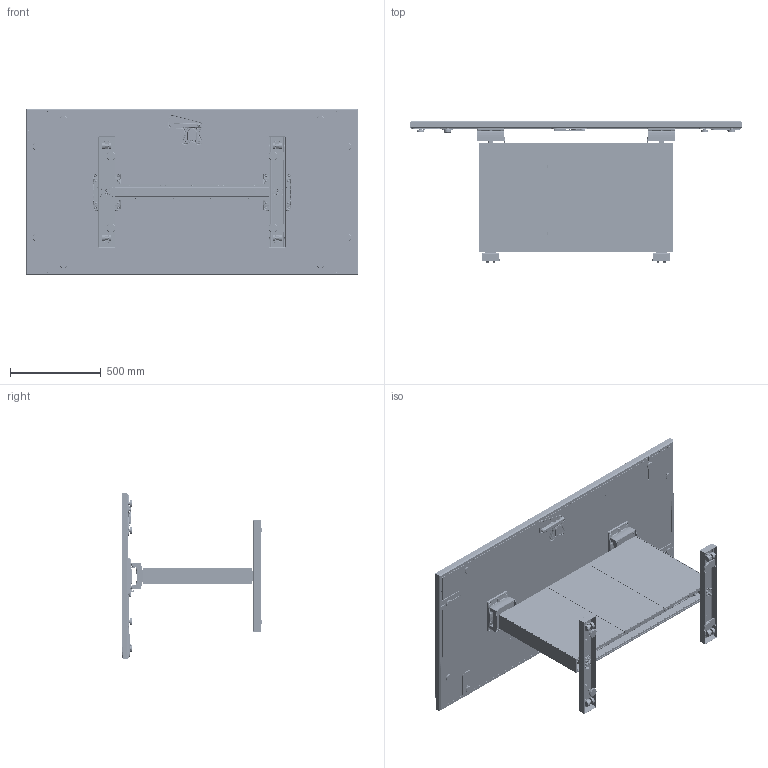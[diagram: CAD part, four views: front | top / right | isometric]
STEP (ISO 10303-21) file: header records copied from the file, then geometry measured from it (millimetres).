
FILE_DESCRIPTION(/* description */ (' - , , '),/* implementation_level */ '2;1');
FILE_NAME(/* name */ '72x36 Framed.stp',/* time_stamp */ '2024-08-21T13:39:41-04:00',/* author */ ('jbylsma'),/* organization */ (''),/* preprocessor_version */ 'ST-DEVELOPER v20',/* originating_system */ 'Autodesk Inventor 2024',/* authorisation */ '');
FILE_SCHEMA (('AUTOMOTIVE_DESIGN { 1 0 10303 214 3 1 1 }'));
Products named in the file (72): Assembly1; APT3672_NPTN_BASE; HW7994; HW8042; HW8042B; HW8042A; HW8042C; HW8042D; HW7987; HW7976; HW7976B; HW7976A; HW7997; HW8020; HW7998; HW8038; HW8039; HW8010; HW8009; AP9012; AP8012; HW8004; HW8029; HW8036; HW8023; HW8001; HW8006; HW8005; HW0747; HW0758; HW5424N; HW8016; HW8017; HW0267; HW8018; HW2291; HW8014; 90935A149; HW1846N; HW0141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
Assembly tree (316 placements, depth 5):
  Assembly1
    APT3672_NPTN_BASE
      HW7994
      HW8042  x2
        HW8042B
        HW8042A
        HW8042C
        HW8042D
      HW7987
      HW7976
        HW7976B  x2
        HW7976A
      HW7997  x2
      HW8020  x4
      HW7998  x4
      HW8038  x2
      HW8039  x2
      HW8010  x8
      HW8009  x8
      AP9012
      AP8012
      HW8004
      HW8029
      HW8036  x2
      HW8023
      HW8001  x4
      HW8006  x4
      HW8005  x4
      HW0747  x20
      90935A149  x15
      HW0758  x8
      HW5424N  x2
      HW8016  x6
      HW8017  x12
      HW0267  x12
      HW8018  x16
      HW2291  x4
      HW8014  x8
      HW1846N  x6
      HW0141  x4
      HW6825  x8
      HW1660N  x4
      HW0579N  x2
      HW3063N
      HW8058
      HW3793N  x2
      HW7505N  x2
    SU-0000326-03
      PA-0001148-03
        PA-0001149-03
        FM-0000232-35
        FM-0000232-03
      GL-0000036-03
      WA-0000069-03
        SF-0000100-09  x2
          EX-0000008
        SF-0000100-03  x2
          EX-0000008_1
      HW8021N
        HW8021-C2  x2
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Bounding box: 1828.8 x 776.36 x 914.51 mm (x, y, z)
Volume: 89197089.1 mm3; surface area: 19807591.5 mm2
Topology: 376 solids, 376 shells, 26241 faces, 66754 edges, 41447 vertices
Faces by surface type: cylinder 9483, plane 6785, bspline 5198, torus 2313, cone 1811, sphere 651
Full cylindrical faces by diameter (mm): 1.041 x4, 1.699 x14, 2.13 x150, 2.381 x8, 2.474 x64, 2.487 x10, 2.642 x8, 2.778 x10, 2.845 x12, 3.092 x72, 3.107 x140, 3.302 x12, 3.394 x156, 3.451 x104, 3.505 x168, 3.556 x2, 3.566 x4, 3.683 x18, 3.797 x1, 3.81 x8, 4.166 x94, 4.445 x10, 4.496 x23, 4.7 x80, 4.775 x2, 4.826 x395, 4.978 x8, 5 x4, 5.105 x46, 5.372 x4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
Entity records: 475742 total; most frequent: CARTESIAN_POINT 245278, ORIENTED_EDGE 49018, DIRECTION 45948, EDGE_CURVE 24509, AXIS2_PLACEMENT_3D 18254, VERTEX_POINT 14754, EDGE_LOOP 10961, FACE_OUTER_BOUND 10196
